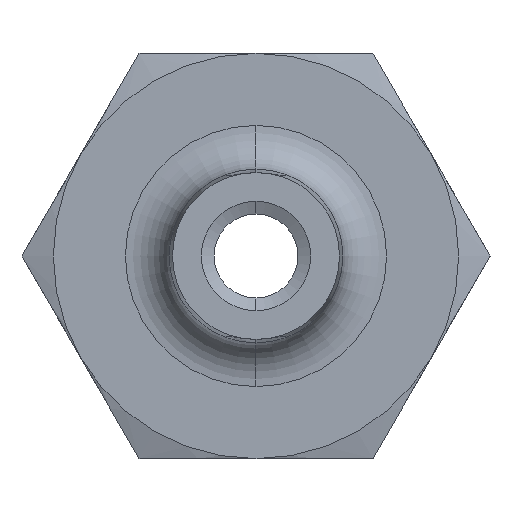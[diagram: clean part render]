
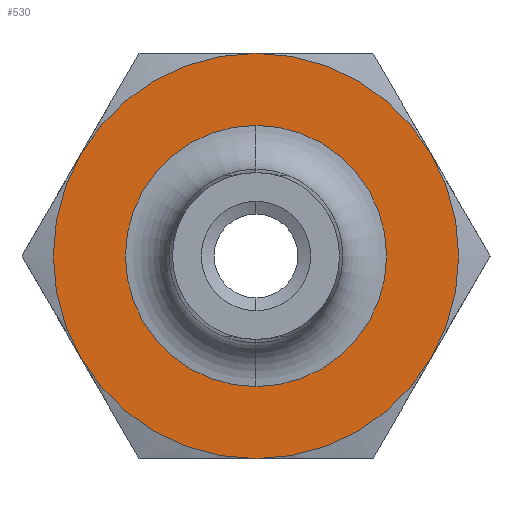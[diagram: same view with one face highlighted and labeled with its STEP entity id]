
A CAD part, left-side view. The second image highlights one B-rep face of the part: STEP entity #530.
In plain terms, the highlighted planar face has unit normal (-1, 0, 0).
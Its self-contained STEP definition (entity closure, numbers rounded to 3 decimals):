
#24 = EDGE_CURVE ( 'NONE', #25, #26, #1871, .T. ) ;
#25 = VERTEX_POINT ( 'NONE', #1866 ) ;
#26 = VERTEX_POINT ( 'NONE', #1865 ) ;
#101 = VERTEX_POINT ( 'NONE', #1778 ) ;
#234 = VERTEX_POINT ( 'NONE', #981 ) ;
#260 = VERTEX_POINT ( 'NONE', #828 ) ;
#300 = VERTEX_POINT ( 'NONE', #1078 ) ;
#372 = ORIENTED_EDGE ( 'NONE', *, *, #373, .F. ) ;
#373 = EDGE_CURVE ( 'NONE', #234, #260, #1199, .T. ) ;
#374 = ORIENTED_EDGE ( 'NONE', *, *, #375, .T. ) ;
#375 = EDGE_CURVE ( 'NONE', #234, #300, #1192, .T. ) ;
#376 = ORIENTED_EDGE ( 'NONE', *, *, #377, .F. ) ;
#377 = EDGE_CURVE ( 'NONE', #101, #300, #1187, .T. ) ;
#503 = ORIENTED_EDGE ( 'NONE', *, *, #504, .T. ) ;
#504 = EDGE_CURVE ( 'NONE', #26, #25, #1332, .T. ) ;
#505 = EDGE_LOOP ( 'NONE', ( #524, #526, #528, #372, #374, #376 ) ) ;
#523 = ORIENTED_EDGE ( 'NONE', *, *, #24, .T. ) ;
#524 = ORIENTED_EDGE ( 'NONE', *, *, #525, .F. ) ;
#525 = EDGE_CURVE ( 'NONE', #609, #101, #1479, .T. ) ;
#526 = ORIENTED_EDGE ( 'NONE', *, *, #527, .F. ) ;
#527 = EDGE_CURVE ( 'NONE', #590, #609, #1573, .T. ) ;
#528 = ORIENTED_EDGE ( 'NONE', *, *, #529, .F. ) ;
#529 = EDGE_CURVE ( 'NONE', #260, #590, #1486, .T. ) ;
#530 = ADVANCED_FACE ( 'NONE', ( #1482, #1481 ), #1487, .F. ) ;
#531 = EDGE_LOOP ( 'NONE', ( #503, #523 ) ) ;
#590 = VERTEX_POINT ( 'NONE', #1488 ) ;
#609 = VERTEX_POINT ( 'NONE', #1557 ) ;
#828 = CARTESIAN_POINT ( 'NONE',  ( 0., -4.811, 2.777 ) ) ;
#981 = CARTESIAN_POINT ( 'NONE',  ( 0., 0., 5.555 ) ) ;
#1078 = CARTESIAN_POINT ( 'NONE',  ( 0., 4.811, 2.777 ) ) ;
#1183 = DIRECTION ( 'NONE',  ( 0., 0., -1. ) ) ;
#1184 = DIRECTION ( 'NONE',  ( 1., 0., 0. ) ) ;
#1185 = CARTESIAN_POINT ( 'NONE',  ( 0., 0., 0. ) ) ;
#1186 = AXIS2_PLACEMENT_3D ( 'NONE', #1185, #1184, #1183 ) ;
#1187 = CIRCLE ( 'NONE', #1186, 5.555 ) ;
#1188 = DIRECTION ( 'NONE',  ( 0., 0., 1. ) ) ;
#1189 = DIRECTION ( 'NONE',  ( -1., 0., 0. ) ) ;
#1190 = CARTESIAN_POINT ( 'NONE',  ( 0., 0., 0. ) ) ;
#1191 = AXIS2_PLACEMENT_3D ( 'NONE', #1190, #1189, #1188 ) ;
#1192 = CIRCLE ( 'NONE', #1191, 5.555 ) ;
#1193 = DIRECTION ( 'NONE',  ( 0., 0., -1. ) ) ;
#1194 = DIRECTION ( 'NONE',  ( 1., 0., 0. ) ) ;
#1195 = CARTESIAN_POINT ( 'NONE',  ( 0., 0., 0. ) ) ;
#1196 = AXIS2_PLACEMENT_3D ( 'NONE', #1195, #1194, #1193 ) ;
#1199 = CIRCLE ( 'NONE', #1196, 5.555 ) ;
#1325 = DIRECTION ( 'NONE',  ( 0., 0., -1. ) ) ;
#1326 = DIRECTION ( 'NONE',  ( 1., 0., 0. ) ) ;
#1327 = CARTESIAN_POINT ( 'NONE',  ( 0., 0., 0. ) ) ;
#1328 = AXIS2_PLACEMENT_3D ( 'NONE', #1327, #1326, #1325 ) ;
#1332 = CIRCLE ( 'NONE', #1328, 3.58 ) ;
#1479 = CIRCLE ( 'NONE', #1567, 5.555 ) ;
#1480 = AXIS2_PLACEMENT_3D ( 'NONE', #1546, #1545, #1544 ) ;
#1481 = FACE_OUTER_BOUND ( 'NONE', #505, .T. ) ;
#1482 = FACE_BOUND ( 'NONE', #531, .T. ) ;
#1483 = DIRECTION ( 'NONE',  ( 0., 0., -1. ) ) ;
#1484 = DIRECTION ( 'NONE',  ( 1., 0., 0. ) ) ;
#1485 = AXIS2_PLACEMENT_3D ( 'NONE', #1574, #1484, #1483 ) ;
#1486 = CIRCLE ( 'NONE', #1485, 5.555 ) ;
#1487 = PLANE ( 'NONE',  #1480 ) ;
#1488 = CARTESIAN_POINT ( 'NONE',  ( 0., -4.811, -2.777 ) ) ;
#1544 = DIRECTION ( 'NONE',  ( 0., 0., -1. ) ) ;
#1545 = DIRECTION ( 'NONE',  ( 1., 0., 0. ) ) ;
#1546 = CARTESIAN_POINT ( 'NONE',  ( 0., 6.414, 0. ) ) ;
#1557 = CARTESIAN_POINT ( 'NONE',  ( 0., 0., -5.555 ) ) ;
#1564 = DIRECTION ( 'NONE',  ( 0., 0., -1. ) ) ;
#1565 = DIRECTION ( 'NONE',  ( 1., 0., 0. ) ) ;
#1566 = CARTESIAN_POINT ( 'NONE',  ( 0., 0., 0. ) ) ;
#1567 = AXIS2_PLACEMENT_3D ( 'NONE', #1566, #1565, #1564 ) ;
#1569 = DIRECTION ( 'NONE',  ( 0., 0., -1. ) ) ;
#1570 = DIRECTION ( 'NONE',  ( 1., 0., 0. ) ) ;
#1571 = CARTESIAN_POINT ( 'NONE',  ( 0., 0., 0. ) ) ;
#1572 = AXIS2_PLACEMENT_3D ( 'NONE', #1571, #1570, #1569 ) ;
#1573 = CIRCLE ( 'NONE', #1572, 5.555 ) ;
#1574 = CARTESIAN_POINT ( 'NONE',  ( 0., 0., 0. ) ) ;
#1778 = CARTESIAN_POINT ( 'NONE',  ( 0., 4.811, -2.777 ) ) ;
#1865 = CARTESIAN_POINT ( 'NONE',  ( 0., 0., -3.58 ) ) ;
#1866 = CARTESIAN_POINT ( 'NONE',  ( 0., 0., 3.58 ) ) ;
#1867 = DIRECTION ( 'NONE',  ( 0., 0., -1. ) ) ;
#1868 = DIRECTION ( 'NONE',  ( 1., 0., 0. ) ) ;
#1869 = CARTESIAN_POINT ( 'NONE',  ( 0., 0., 0. ) ) ;
#1870 = AXIS2_PLACEMENT_3D ( 'NONE', #1869, #1868, #1867 ) ;
#1871 = CIRCLE ( 'NONE', #1870, 3.58 ) ;
